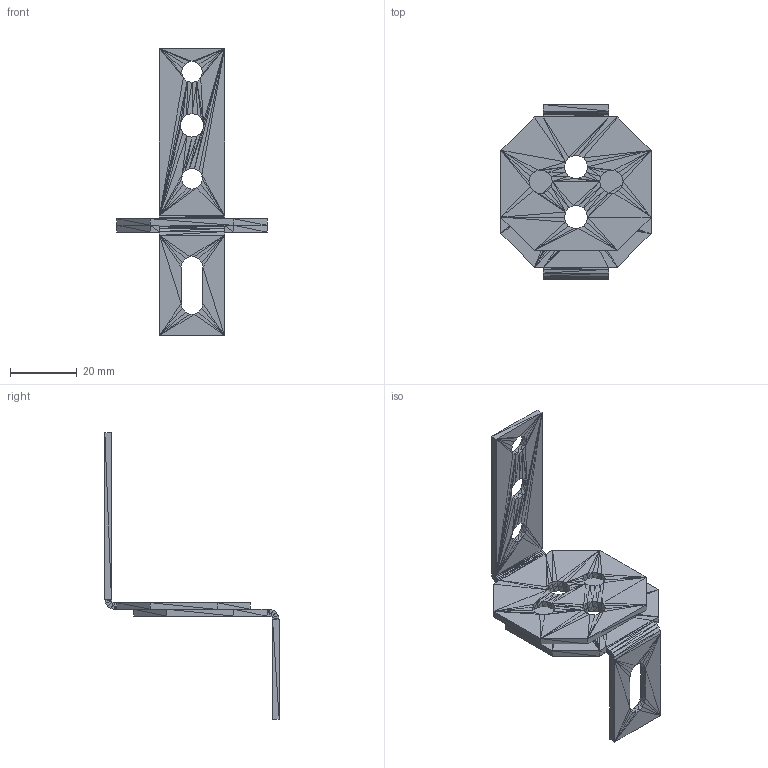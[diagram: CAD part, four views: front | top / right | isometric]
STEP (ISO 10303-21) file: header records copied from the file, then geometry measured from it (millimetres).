
FILE_DESCRIPTION((''),'2;1');
FILE_NAME('051089', '2026-01-29T08:53:19', (''), (''), 'ImageToStl.com STEP Converter','', '');
FILE_SCHEMA(('AUTOMOTIVE_DESIGN_CC2'));
Length unit declared in the file: metre
Products named in the file (1): product0
Bounding box: 45 x 52.28 x 86 mm (x, y, z)
Surface area: 10334.7 mm2 (no closed solid volume)
Topology: 0 solids, 780 shells, 780 faces, 2340 edges, 374 vertices
Faces by surface type: plane 780
Entity records: 17936 total; most frequent: DIRECTION 3902, ORIENTED_EDGE 2340, EDGE_CURVE 2340, LINE 2340, VECTOR 2340, AXIS2_PLACEMENT_3D 781, FACE_SURFACE 780, PLANE 780
